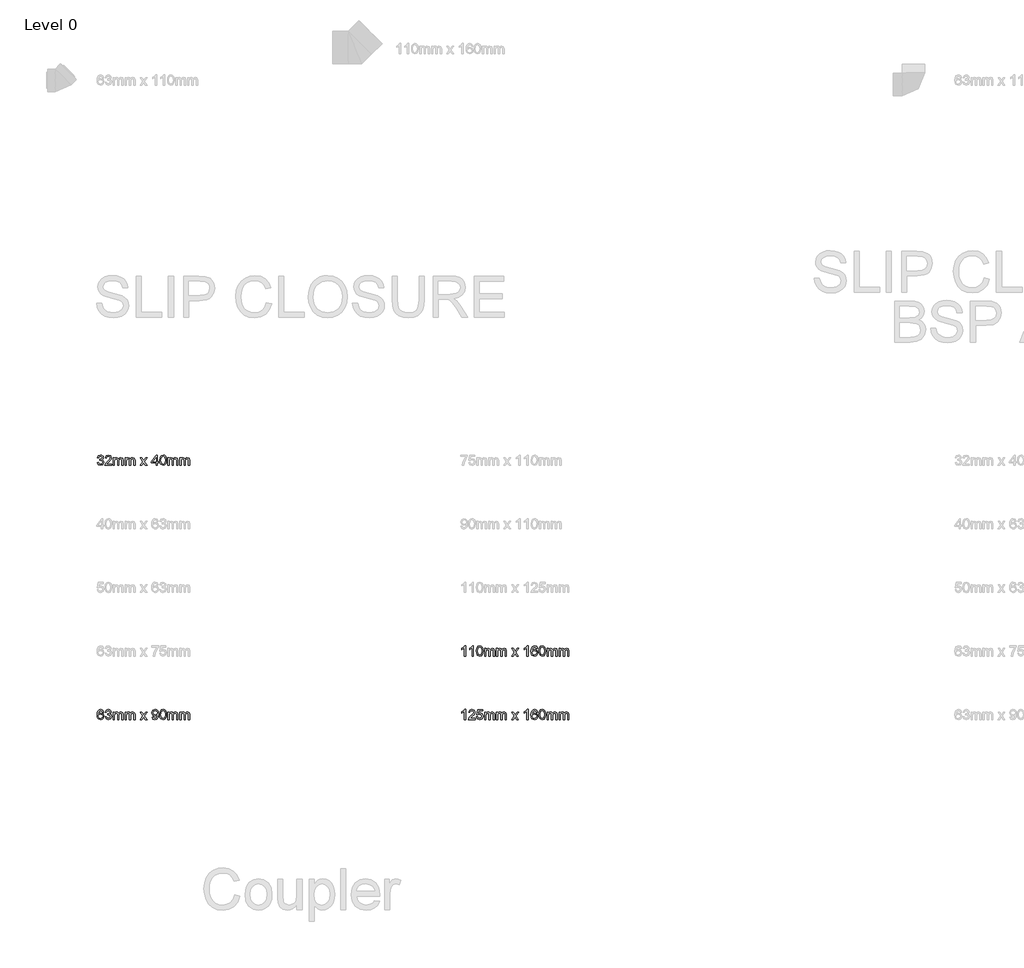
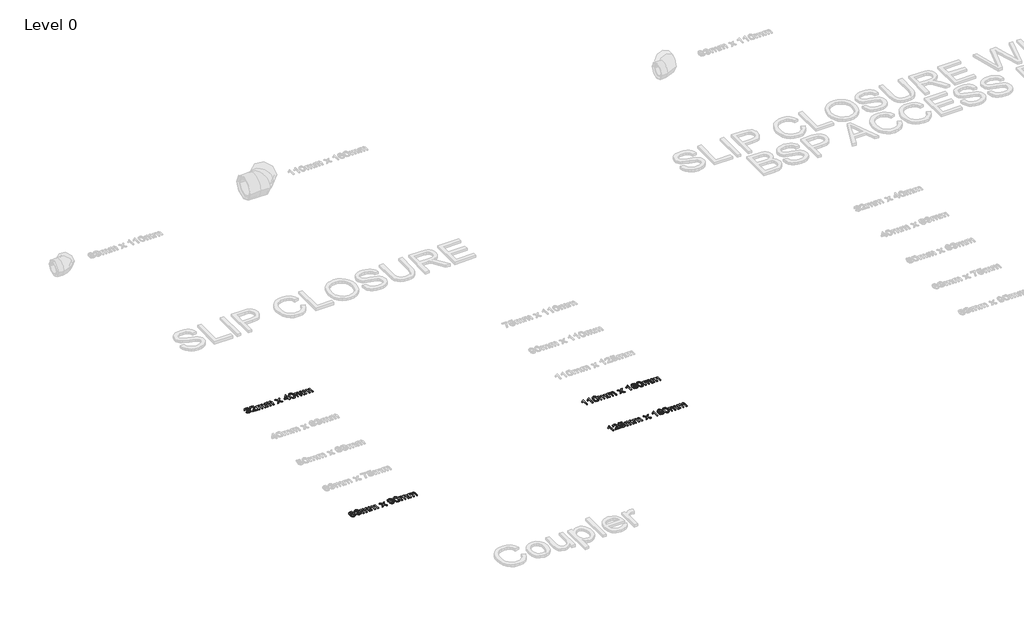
# One storey, part 10 of 21: 4 proxies.
"""IFC4 building model written with IfcOpenShell, lengths in millimetres."""

from ifc_helpers import new_model, si_unit, origin, origin_with_axes, place, context, project, spatial, polyline, outline, extrude, element, save

model = new_model("IFC4")

# Units and contexts
model_context = context("Model", 3, world=origin())
ifc_project = project(units=[si_unit("LENGTHUNIT", "METRE", prefix="MILLI")], contexts=[model_context])

# Site, building, storey
site = spatial("IfcSite", under=ifc_project)
building = spatial("IfcBuilding", under=site)
storey = spatial("IfcBuildingStorey", under=building, Name="Level 0", Elevation=0.0)

# Proxies
placement = place(None, origin())
element("IfcBuildingElementProxy", 1, Name="50mm", ObjectType="50mm", at=placement, inside=storey, context=model_context, shape_type="SweptSolid", body=[
    extrude(outline(polyline([(-7438.2285688, -5164.8694094), (-7431.9500494, -5164.0845945), (-7428.4858273, -5170.6942077), (-7422.0049728, -5172.7175586), (-7414.3775528, -5169.9339182), (-7411.5448614, -5163.0422622), (-7414.3530273, -5156.5491449), (-7421.4899381, -5153.9801023), (-7425.8922593, -5154.6668154), (-7425.1932835, -5148.388296), (-7417.0630914, -5146.6592506), (-7413.8993062, -5141.1164952), (-7416.1924373, -5136.2052706), (-7422.1030747, -5134.2616274), (-7428.0872885, -5136.2236647), (-7431.1652345, -5142.1097766), (-7437.4437539, -5141.3249617), (-7432.3056687, -5131.477987), (-7422.3238039, -5127.983108), (-7414.7515662, -5129.706022), (-7409.4540654, -5134.4149116), (-7407.6207868, -5140.7486132), (-7409.3620949, -5146.5366233), (-7414.5124429, -5150.6936899), (-7407.6698378, -5154.9856465), (-7405.2663421, -5163.1526268), (-7410.0733335, -5174.3852903), (-7422.225702, -5178.996078), (-7433.2376364, -5175.0597407), (-7438.2285688, -5164.8694094)])), origin_with_axes(), (0.0, 0.0, 1.0), 5.0),
    extrude(outline(polyline([(-7367.5952258, -5171.9327437), (-7367.5952258, -5178.2112631), (-7400.5574525, -5178.2112631), (-7399.8830022, -5173.8825183), (-7396.0692922, -5167.2177228), (-7388.2088802, -5159.9397907), (-7377.3686241, -5149.4796793), (-7374.6585601, -5142.367294), (-7377.2153399, -5136.6099408), (-7383.8923981, -5134.2616274), (-7390.8514992, -5136.5547585), (-7393.4941182, -5142.8945916), (-7399.7726376, -5142.1097766), (-7394.9595148, -5131.6006143), (-7383.7575081, -5127.983108), (-7372.5187131, -5132.0052845), (-7368.3800407, -5141.9871493), (-7369.4959494, -5147.9407063), (-7373.2054262, -5154.0965983), (-7382.200141, -5162.6989056), (-7389.4228908, -5168.7383017), (-7392.2555822, -5171.9327437), (-7367.5952258, -5171.9327437)])), origin_with_axes(), (0.0, 0.0, 1.0), 5.0),
    extrude(outline(polyline([(-7359.7470765, -5178.2112631), (-7359.7470765, -5141.3249617), (-7353.4685571, -5141.3249617), (-7353.4685571, -5147.3950146), (-7349.1520751, -5142.4224763), (-7343.0084457, -5140.5401468), (-7336.7176636, -5142.4592645), (-7333.2595729, -5147.836473), (-7328.360611, -5142.3642283), (-7322.1740621, -5140.5401468), (-7313.9641622, -5143.5751732), (-7311.0885513, -5152.9255073), (-7311.0885513, -5178.2112631), (-7317.3670707, -5178.2112631), (-7317.3670707, -5155.6233086), (-7317.9495505, -5150.3809902), (-7320.0587406, -5147.7996848), (-7323.6455901, -5146.8186662), (-7329.8198762, -5149.3325265), (-7332.2785542, -5157.3891422), (-7332.2785542, -5178.2112631), (-7338.5570736, -5178.2112631), (-7338.5570736, -5154.9243328), (-7340.0102075, -5148.8420171), (-7344.7742793, -5146.8186662), (-7349.4218552, -5148.1675668), (-7352.512064, -5152.1161669), (-7353.4685571, -5159.6086969), (-7353.4685571, -5178.2112631), (-7359.7470765, -5178.2112631)])), origin_with_axes(), (0.0, 0.0, 1.0), 5.0),
    extrude(outline(polyline([(-7301.6707722, -5178.2112631), (-7301.6707722, -5141.3249617), (-7295.3922528, -5141.3249617), (-7295.3922528, -5147.3950146), (-7291.0757708, -5142.4224763), (-7284.9321414, -5140.5401468), (-7278.6413593, -5142.4592645), (-7275.1832686, -5147.836473), (-7270.2843067, -5142.3642283), (-7264.0977578, -5140.5401468), (-7255.8878579, -5143.5751732), (-7253.012247, -5152.9255073), (-7253.012247, -5178.2112631), (-7259.2907664, -5178.2112631), (-7259.2907664, -5155.6233086), (-7259.8732462, -5150.3809902), (-7261.9824363, -5147.7996848), (-7265.5692858, -5146.8186662), (-7271.7435719, -5149.3325265), (-7274.2022499, -5157.3891422), (-7274.2022499, -5178.2112631), (-7280.4807693, -5178.2112631), (-7280.4807693, -5154.9243328), (-7281.9339032, -5148.8420171), (-7286.697975, -5146.8186662), (-7291.3455509, -5148.1675668), (-7294.4357597, -5152.1161669), (-7295.3922528, -5159.6086969), (-7295.3922528, -5178.2112631), (-7301.6707722, -5178.2112631)])), origin_with_axes(), (0.0, 0.0, 1.0), 5.0),
    extrude(outline(polyline([(-7227.8981695, -5178.2112631), (-7214.4827394, -5159.6700105), (-7227.1133545, -5141.3249617), (-7219.5595109, -5141.3249617), (-7213.4649325, -5150.1541296), (-7210.6199784, -5154.3234589), (-7208.155169, -5150.914419), (-7201.2144621, -5141.3249617), (-7193.6606184, -5141.3249617), (-7206.9288957, -5159.6700105), (-7194.1511278, -5178.2112631), (-7201.7049714, -5178.2112631), (-7209.3937051, -5167.0644386), (-7210.8039194, -5165.0288249), (-7220.3443258, -5178.2112631), (-7227.8981695, -5178.2112631)])), origin_with_axes(), (0.0, 0.0, 1.0), 5.0),
    extrude(outline(polyline([(-7150.2014921, -5178.2112631), (-7150.2014921, -5166.4390392), (-7172.9611248, -5166.4390392), (-7172.9611248, -5160.1605199), (-7148.6318622, -5128.7679229), (-7143.9229727, -5128.7679229), (-7143.9229727, -5160.1605199), (-7137.6444533, -5160.1605199), (-7137.6444533, -5166.4390392), (-7143.9229727, -5166.4390392), (-7143.9229727, -5178.2112631), (-7150.2014921, -5178.2112631)]), holes=[polyline([(-7150.2014921, -5160.1605199), (-7150.2014921, -5140.760876), (-7165.2356029, -5160.1605199), (-7150.2014921, -5160.1605199)])]), origin_with_axes(), (0.0, 0.0, 1.0), 5.0),
    extrude(outline(polyline([(-7132.1507488, -5153.5018557), (-7130.3052075, -5139.0502247), (-7124.8237658, -5130.7176975), (-7115.6696355, -5127.983108), (-7108.336521, -5129.6017888), (-7103.2720122, -5134.2677588), (-7100.3289563, -5141.6989751), (-7099.1885221, -5153.5018557), (-7101.0156693, -5167.8921731), (-7106.4787169, -5176.2430944), (-7115.6696355, -5178.996078), (-7127.1475537, -5174.2136121), (-7130.8999501, -5165.7186037), (-7132.1507488, -5153.5018557)]), holes=[polyline([(-7125.8722295, -5153.489593), (-7122.9291735, -5169.0816582), (-7115.6696355, -5172.7175586), (-7108.4100974, -5169.0693955), (-7105.4670415, -5153.489593), (-7108.3119956, -5138.0753374), (-7115.7432119, -5134.2616274), (-7122.8310716, -5137.6216163), (-7125.8722295, -5153.489593)])]), origin_with_axes(), (0.0, 0.0, 1.0), 5.0),
    extrude(outline(polyline([(-7092.1251878, -5178.2112631), (-7092.1251878, -5141.3249617), (-7085.8466684, -5141.3249617), (-7085.8466684, -5147.3950146), (-7081.5301863, -5142.4224763), (-7075.386557, -5140.5401468), (-7069.0957749, -5142.4592645), (-7065.6376841, -5147.836473), (-7060.7387222, -5142.3642283), (-7054.5521733, -5140.5401468), (-7046.3422735, -5143.5751732), (-7043.4666625, -5152.9255073), (-7043.4666625, -5178.2112631), (-7049.7451819, -5178.2112631), (-7049.7451819, -5155.6233086), (-7050.3276618, -5150.3809902), (-7052.4368519, -5147.7996848), (-7056.0237013, -5146.8186662), (-7062.1979875, -5149.3325265), (-7064.6566655, -5157.3891422), (-7064.6566655, -5178.2112631), (-7070.9351848, -5178.2112631), (-7070.9351848, -5154.9243328), (-7072.3883187, -5148.8420171), (-7077.1523906, -5146.8186662), (-7081.7999664, -5148.1675668), (-7084.8901752, -5152.1161669), (-7085.8466684, -5159.6086969), (-7085.8466684, -5178.2112631), (-7092.1251878, -5178.2112631)])), origin_with_axes(), (0.0, 0.0, 1.0), 5.0),
    extrude(outline(polyline([(-7034.0488835, -5178.2112631), (-7034.0488835, -5141.3249617), (-7027.7703641, -5141.3249617), (-7027.7703641, -5147.3950146), (-7023.453882, -5142.4224763), (-7017.3102527, -5140.5401468), (-7011.0194706, -5142.4592645), (-7007.5613798, -5147.836473), (-7002.6624179, -5142.3642283), (-6996.475869, -5140.5401468), (-6988.2659692, -5143.5751732), (-6985.3903582, -5152.9255073), (-6985.3903582, -5178.2112631), (-6991.6688776, -5178.2112631), (-6991.6688776, -5155.6233086), (-6992.2513574, -5150.3809902), (-6994.3605476, -5147.7996848), (-6997.947397, -5146.8186662), (-7004.1216832, -5149.3325265), (-7006.5803612, -5157.3891422), (-7006.5803612, -5178.2112631), (-7012.8588805, -5178.2112631), (-7012.8588805, -5154.9243328), (-7014.3120144, -5148.8420171), (-7019.0760863, -5146.8186662), (-7023.7236621, -5148.1675668), (-7026.8138709, -5152.1161669), (-7027.7703641, -5159.6086969), (-7027.7703641, -5178.2112631), (-7034.0488835, -5178.2112631)])), origin_with_axes(), (0.0, 0.0, 1.0), 5.0),
])
element("IfcBuildingElementProxy", 2, Name="50mm", ObjectType="50mm", at=placement, inside=storey, context=model_context, shape_type="SweptSolid", body=[
    extrude(outline(polyline([(-7406.051157, -6386.3249617), (-7412.3296764, -6387.1097766), (-7414.7086466, -6381.8735896), (-7420.9994287, -6379.2616274), (-7426.6648115, -6380.7822063), (-7430.9506367, -6386.4905086), (-7432.7348644, -6397.6802526), (-7427.1982403, -6392.6709261), (-7420.3372411, -6391.0338512), (-7409.6686633, -6395.5097489), (-7405.2663421, -6407.0735062), (-7407.338744, -6415.7371272), (-7413.0409149, -6421.8684938), (-7421.2692089, -6423.996078), (-7434.0653709, -6418.3552208), (-7437.7763805, -6410.8872163), (-7439.0133838, -6399.7649173), (-7437.6399576, -6387.2599951), (-7433.5196793, -6378.7098044), (-7427.8941505, -6374.4147821), (-7420.6070213, -6372.983108), (-7410.6864701, -6376.5270379), (-7406.051157, -6386.3249617)]), holes=[polyline([(-7432.7348644, -6406.9754044), (-7431.2817305, -6412.4139265), (-7427.4189695, -6416.3625266), (-7421.7597182, -6417.7175586), (-7414.3591587, -6414.9093927), (-7411.5448614, -6407.2819727), (-7414.3223705, -6399.9795151), (-7422.0172356, -6397.3123706), (-7429.6139988, -6399.9795151), (-7432.7348644, -6406.9754044)])]), origin_with_axes(), (0.0, 0.0, 1.0), 5.0),
    extrude(outline(polyline([(-7399.7726376, -6409.8694094), (-7393.4941182, -6409.0845945), (-7390.0298961, -6415.6942077), (-7383.5490416, -6417.7175586), (-7375.9216216, -6414.9339182), (-7373.0889302, -6408.0422622), (-7375.8970961, -6401.5491449), (-7383.0340068, -6398.9801023), (-7387.436328, -6399.6668154), (-7386.7373522, -6393.388296), (-7378.6071601, -6391.6592506), (-7375.443375, -6386.1164952), (-7377.7365061, -6381.2052706), (-7383.6471435, -6379.2616274), (-7389.6313573, -6381.2236647), (-7392.7093033, -6387.1097766), (-7398.9878227, -6386.3249617), (-7393.8497375, -6376.477987), (-7383.8678727, -6372.983108), (-7376.2956349, -6374.706022), (-7370.9981342, -6379.4149116), (-7369.1648556, -6385.7486132), (-7370.9061637, -6391.5366233), (-7376.0565116, -6395.6936899), (-7369.2139065, -6399.9856465), (-7366.8104108, -6408.1526268), (-7371.6174022, -6419.3852903), (-7383.7697708, -6423.996078), (-7394.7817052, -6420.0597407), (-7399.7726376, -6409.8694094)])), origin_with_axes(), (0.0, 0.0, 1.0), 5.0),
    extrude(outline(polyline([(-7359.7470765, -6423.2112631), (-7359.7470765, -6386.3249617), (-7353.4685571, -6386.3249617), (-7353.4685571, -6392.3950146), (-7349.1520751, -6387.4224763), (-7343.0084457, -6385.5401468), (-7336.7176636, -6387.4592645), (-7333.2595729, -6392.836473), (-7328.360611, -6387.3642283), (-7322.1740621, -6385.5401468), (-7313.9641622, -6388.5751732), (-7311.0885513, -6397.9255073), (-7311.0885513, -6423.2112631), (-7317.3670707, -6423.2112631), (-7317.3670707, -6400.6233086), (-7317.9495505, -6395.3809902), (-7320.0587406, -6392.7996848), (-7323.6455901, -6391.8186662), (-7329.8198762, -6394.3325265), (-7332.2785542, -6402.3891422), (-7332.2785542, -6423.2112631), (-7338.5570736, -6423.2112631), (-7338.5570736, -6399.9243328), (-7340.0102075, -6393.8420171), (-7344.7742793, -6391.8186662), (-7349.4218552, -6393.1675668), (-7352.512064, -6397.1161669), (-7353.4685571, -6404.6086969), (-7353.4685571, -6423.2112631), (-7359.7470765, -6423.2112631)])), origin_with_axes(), (0.0, 0.0, 1.0), 5.0),
    extrude(outline(polyline([(-7301.6707722, -6423.2112631), (-7301.6707722, -6386.3249617), (-7295.3922528, -6386.3249617), (-7295.3922528, -6392.3950146), (-7291.0757708, -6387.4224763), (-7284.9321414, -6385.5401468), (-7278.6413593, -6387.4592645), (-7275.1832686, -6392.836473), (-7270.2843067, -6387.3642283), (-7264.0977578, -6385.5401468), (-7255.8878579, -6388.5751732), (-7253.012247, -6397.9255073), (-7253.012247, -6423.2112631), (-7259.2907664, -6423.2112631), (-7259.2907664, -6400.6233086), (-7259.8732462, -6395.3809902), (-7261.9824363, -6392.7996848), (-7265.5692858, -6391.8186662), (-7271.7435719, -6394.3325265), (-7274.2022499, -6402.3891422), (-7274.2022499, -6423.2112631), (-7280.4807693, -6423.2112631), (-7280.4807693, -6399.9243328), (-7281.9339032, -6393.8420171), (-7286.697975, -6391.8186662), (-7291.3455509, -6393.1675668), (-7294.4357597, -6397.1161669), (-7295.3922528, -6404.6086969), (-7295.3922528, -6423.2112631), (-7301.6707722, -6423.2112631)])), origin_with_axes(), (0.0, 0.0, 1.0), 5.0),
    extrude(outline(polyline([(-7227.8981695, -6423.2112631), (-7214.4827394, -6404.6700105), (-7227.1133545, -6386.3249617), (-7219.5595109, -6386.3249617), (-7213.4649325, -6395.1541296), (-7210.6199784, -6399.3234589), (-7208.155169, -6395.914419), (-7201.2144621, -6386.3249617), (-7193.6606184, -6386.3249617), (-7206.9288957, -6404.6700105), (-7194.1511278, -6423.2112631), (-7201.7049714, -6423.2112631), (-7209.3937051, -6412.0644386), (-7210.8039194, -6410.0288249), (-7220.3443258, -6423.2112631), (-7227.8981695, -6423.2112631)])), origin_with_axes(), (0.0, 0.0, 1.0), 5.0),
    extrude(outline(polyline([(-7169.8218652, -6410.6542243), (-7163.5433458, -6409.8694094), (-7160.7229171, -6415.8597546), (-7155.3763655, -6417.7175586), (-7150.2934626, -6416.5219421), (-7146.8476346, -6413.3275002), (-7144.7936267, -6407.8705839), (-7143.8861845, -6400.5865204), (-7148.9445619, -6404.1181875), (-7155.8300866, -6405.9453348), (-7166.3208548, -6401.4816999), (-7170.6066801, -6389.7217388), (-7166.1123884, -6377.581633), (-7154.8490679, -6372.983108), (-7145.9034041, -6375.6073329), (-7139.747512, -6383.0876001), (-7137.6444533, -6397.1406924), (-7139.7413807, -6412.3894011), (-7145.9769805, -6421.0284966), (-7155.6706711, -6423.996078), (-7165.3214421, -6420.4950677), (-7169.8218652, -6410.6542243)]), holes=[polyline([(-7143.9229727, -6389.574586), (-7146.6330367, -6382.0452678), (-7153.8312611, -6379.2616274), (-7161.3851047, -6382.2598657), (-7164.3281607, -6390.0283071), (-7161.5445203, -6396.9874082), (-7154.0029394, -6399.6668154), (-7146.7617954, -6396.9874082), (-7143.9229727, -6389.574586)])]), origin_with_axes(), (0.0, 0.0, 1.0), 5.0),
    extrude(outline(polyline([(-7132.1507488, -6398.5018557), (-7130.3052075, -6384.0502247), (-7124.8237658, -6375.7176975), (-7115.6696355, -6372.983108), (-7108.336521, -6374.6017888), (-7103.2720122, -6379.2677588), (-7100.3289563, -6386.6989751), (-7099.1885221, -6398.5018557), (-7101.0156693, -6412.8921731), (-7106.4787169, -6421.2430944), (-7115.6696355, -6423.996078), (-7127.1475537, -6419.2136121), (-7130.8999501, -6410.7186037), (-7132.1507488, -6398.5018557)]), holes=[polyline([(-7125.8722295, -6398.489593), (-7122.9291735, -6414.0816582), (-7115.6696355, -6417.7175586), (-7108.4100974, -6414.0693955), (-7105.4670415, -6398.489593), (-7108.3119956, -6383.0753374), (-7115.7432119, -6379.2616274), (-7122.8310716, -6382.6216163), (-7125.8722295, -6398.489593)])]), origin_with_axes(), (0.0, 0.0, 1.0), 5.0),
    extrude(outline(polyline([(-7092.1251878, -6423.2112631), (-7092.1251878, -6386.3249617), (-7085.8466684, -6386.3249617), (-7085.8466684, -6392.3950146), (-7081.5301863, -6387.4224763), (-7075.386557, -6385.5401468), (-7069.0957749, -6387.4592645), (-7065.6376841, -6392.836473), (-7060.7387222, -6387.3642283), (-7054.5521733, -6385.5401468), (-7046.3422735, -6388.5751732), (-7043.4666625, -6397.9255073), (-7043.4666625, -6423.2112631), (-7049.7451819, -6423.2112631), (-7049.7451819, -6400.6233086), (-7050.3276618, -6395.3809902), (-7052.4368519, -6392.7996848), (-7056.0237013, -6391.8186662), (-7062.1979875, -6394.3325265), (-7064.6566655, -6402.3891422), (-7064.6566655, -6423.2112631), (-7070.9351848, -6423.2112631), (-7070.9351848, -6399.9243328), (-7072.3883187, -6393.8420171), (-7077.1523906, -6391.8186662), (-7081.7999664, -6393.1675668), (-7084.8901752, -6397.1161669), (-7085.8466684, -6404.6086969), (-7085.8466684, -6423.2112631), (-7092.1251878, -6423.2112631)])), origin_with_axes(), (0.0, 0.0, 1.0), 5.0),
    extrude(outline(polyline([(-7034.0488835, -6423.2112631), (-7034.0488835, -6386.3249617), (-7027.7703641, -6386.3249617), (-7027.7703641, -6392.3950146), (-7023.453882, -6387.4224763), (-7017.3102527, -6385.5401468), (-7011.0194706, -6387.4592645), (-7007.5613798, -6392.836473), (-7002.6624179, -6387.3642283), (-6996.475869, -6385.5401468), (-6988.2659692, -6388.5751732), (-6985.3903582, -6397.9255073), (-6985.3903582, -6423.2112631), (-6991.6688776, -6423.2112631), (-6991.6688776, -6400.6233086), (-6992.2513574, -6395.3809902), (-6994.3605476, -6392.7996848), (-6997.947397, -6391.8186662), (-7004.1216832, -6394.3325265), (-7006.5803612, -6402.3891422), (-7006.5803612, -6423.2112631), (-7012.8588805, -6423.2112631), (-7012.8588805, -6399.9243328), (-7014.3120144, -6393.8420171), (-7019.0760863, -6391.8186662), (-7023.7236621, -6393.1675668), (-7026.8138709, -6397.1161669), (-7027.7703641, -6404.6086969), (-7027.7703641, -6423.2112631), (-7034.0488835, -6423.2112631)])), origin_with_axes(), (0.0, 0.0, 1.0), 5.0),
])
element("IfcBuildingElementProxy", 3, Name="50mm", ObjectType="50mm", at=placement, inside=storey, context=model_context, shape_type="SweptSolid", body=[
    extrude(outline(polyline([(-5634.6841211, -6111.9612631), (-5640.9626405, -6111.9612631), (-5640.9626405, -6072.8186188), (-5646.9100661, -6077.0553931), (-5653.5196793, -6080.2253096), (-5653.5196793, -6074.2901468), (-5644.316498, -6068.4162976), (-5638.7308231, -6061.733108), (-5634.6841211, -6061.733108), (-5634.6841211, -6111.9612631)])), origin_with_axes(), (0.0, 0.0, 1.0), 5.0),
    extrude(outline(polyline([(-5596.2281899, -6111.9612631), (-5602.5067093, -6111.9612631), (-5602.5067093, -6072.8186188), (-5608.4541349, -6077.0553931), (-5615.0637481, -6080.2253096), (-5615.0637481, -6074.2901468), (-5605.8605668, -6068.4162976), (-5600.2748919, -6061.733108), (-5596.2281899, -6061.733108), (-5596.2281899, -6111.9612631)])), origin_with_axes(), (0.0, 0.0, 1.0), 5.0),
    extrude(outline(polyline([(-5581.3167064, -6087.2518557), (-5579.471165, -6072.8002247), (-5573.9897233, -6064.4676975), (-5564.835593, -6061.733108), (-5557.5024786, -6063.3517888), (-5552.4379698, -6068.0177588), (-5549.4949138, -6075.4489751), (-5548.3544796, -6087.2518557), (-5550.1816268, -6101.6421731), (-5555.6446745, -6109.9930944), (-5564.835593, -6112.746078), (-5576.3135112, -6107.9636121), (-5580.0659076, -6099.4686037), (-5581.3167064, -6087.2518557)]), holes=[polyline([(-5575.038187, -6087.239593), (-5572.095131, -6102.8316582), (-5564.835593, -6106.4675586), (-5557.576055, -6102.8193955), (-5554.632999, -6087.239593), (-5557.4779531, -6071.8253374), (-5564.9091694, -6068.0116274), (-5571.9970292, -6071.3716163), (-5575.038187, -6087.239593)])]), origin_with_axes(), (0.0, 0.0, 1.0), 5.0),
    extrude(outline(polyline([(-5541.2911453, -6111.9612631), (-5541.2911453, -6075.0749617), (-5535.0126259, -6075.0749617), (-5535.0126259, -6081.1450146), (-5530.6961438, -6076.1724763), (-5524.5525145, -6074.2901468), (-5518.2617324, -6076.2092645), (-5514.8036416, -6081.586473), (-5509.9046797, -6076.1142283), (-5503.7181309, -6074.2901468), (-5495.508231, -6077.3251732), (-5492.6326201, -6086.6755073), (-5492.6326201, -6111.9612631), (-5498.9111395, -6111.9612631), (-5498.9111395, -6089.3733086), (-5499.4936193, -6084.1309902), (-5501.6028094, -6081.5496848), (-5505.1896588, -6080.5686662), (-5511.363945, -6083.0825265), (-5513.822623, -6091.1391422), (-5513.822623, -6111.9612631), (-5520.1011424, -6111.9612631), (-5520.1011424, -6088.6743328), (-5521.5542763, -6082.5920171), (-5526.3183481, -6080.5686662), (-5530.965924, -6081.9175668), (-5534.0561327, -6085.8661669), (-5535.0126259, -6093.3586969), (-5535.0126259, -6111.9612631), (-5541.2911453, -6111.9612631)])), origin_with_axes(), (0.0, 0.0, 1.0), 5.0),
    extrude(outline(polyline([(-5483.214841, -6111.9612631), (-5483.214841, -6075.0749617), (-5476.9363216, -6075.0749617), (-5476.9363216, -6081.1450146), (-5472.6198395, -6076.1724763), (-5466.4762102, -6074.2901468), (-5460.1854281, -6076.2092645), (-5456.7273373, -6081.586473), (-5451.8283754, -6076.1142283), (-5445.6418266, -6074.2901468), (-5437.4319267, -6077.3251732), (-5434.5563158, -6086.6755073), (-5434.5563158, -6111.9612631), (-5440.8348351, -6111.9612631), (-5440.8348351, -6089.3733086), (-5441.417315, -6084.1309902), (-5443.5265051, -6081.5496848), (-5447.1133545, -6080.5686662), (-5453.2876407, -6083.0825265), (-5455.7463187, -6091.1391422), (-5455.7463187, -6111.9612631), (-5462.0248381, -6111.9612631), (-5462.0248381, -6088.6743328), (-5463.477972, -6082.5920171), (-5468.2420438, -6080.5686662), (-5472.8896197, -6081.9175668), (-5475.9798284, -6085.8661669), (-5476.9363216, -6093.3586969), (-5476.9363216, -6111.9612631), (-5483.214841, -6111.9612631)])), origin_with_axes(), (0.0, 0.0, 1.0), 5.0),
    extrude(outline(polyline([(-5409.4422382, -6111.9612631), (-5396.0268081, -6093.4200105), (-5408.6574233, -6075.0749617), (-5401.1035797, -6075.0749617), (-5395.0090013, -6083.9041296), (-5392.1640472, -6088.0734589), (-5389.6992378, -6084.664419), (-5382.7585308, -6075.0749617), (-5375.2046872, -6075.0749617), (-5388.4729645, -6093.4200105), (-5375.6951965, -6111.9612631), (-5383.2490402, -6111.9612631), (-5390.9377739, -6100.8144386), (-5392.3479882, -6098.7788249), (-5401.8883946, -6111.9612631), (-5409.4422382, -6111.9612631)])), origin_with_axes(), (0.0, 0.0, 1.0), 5.0),
    extrude(outline(polyline([(-5328.6063012, -6111.9612631), (-5334.8848205, -6111.9612631), (-5334.8848205, -6072.8186188), (-5340.8322461, -6077.0553931), (-5347.4418593, -6080.2253096), (-5347.4418593, -6074.2901468), (-5338.2386781, -6068.4162976), (-5332.6530031, -6061.733108), (-5328.6063012, -6061.733108), (-5328.6063012, -6111.9612631)])), origin_with_axes(), (0.0, 0.0, 1.0), 5.0),
    extrude(outline(polyline([(-5281.5174058, -6075.0749617), (-5287.7959252, -6075.8597766), (-5290.1748954, -6070.6235896), (-5296.4656775, -6068.0116274), (-5302.1310602, -6069.5322063), (-5306.4168855, -6075.2405086), (-5308.2011132, -6086.4302526), (-5302.6644891, -6081.4209261), (-5295.8034899, -6079.7838512), (-5285.1349121, -6084.2597489), (-5280.7325908, -6095.8235062), (-5282.8049928, -6104.4871272), (-5288.5071637, -6110.6184938), (-5296.7354576, -6112.746078), (-5309.5316197, -6107.1052208), (-5313.2426293, -6099.6372163), (-5314.4796325, -6088.5149173), (-5313.1062064, -6076.0099951), (-5308.9859281, -6067.4598044), (-5303.3603992, -6063.1647821), (-5296.07327, -6061.733108), (-5286.1527189, -6065.2770379), (-5281.5174058, -6075.0749617)]), holes=[polyline([(-5308.2011132, -6095.7254044), (-5306.7479793, -6101.1639265), (-5302.8852183, -6105.1125266), (-5297.225967, -6106.4675586), (-5289.8254075, -6103.6593927), (-5287.0111102, -6096.0319727), (-5289.7886193, -6088.7295151), (-5297.4834844, -6086.0623706), (-5305.0802476, -6088.7295151), (-5308.2011132, -6095.7254044)])]), origin_with_axes(), (0.0, 0.0, 1.0), 5.0),
    extrude(outline(polyline([(-5275.2388864, -6087.2518557), (-5273.393345, -6072.8002247), (-5267.9119033, -6064.4676975), (-5258.757773, -6061.733108), (-5251.4246586, -6063.3517888), (-5246.3601498, -6068.0177588), (-5243.4170938, -6075.4489751), (-5242.2766596, -6087.2518557), (-5244.1038069, -6101.6421731), (-5249.5668545, -6109.9930944), (-5258.757773, -6112.746078), (-5270.2356913, -6107.9636121), (-5273.9880876, -6099.4686037), (-5275.2388864, -6087.2518557)]), holes=[polyline([(-5268.960367, -6087.239593), (-5266.017311, -6102.8316582), (-5258.757773, -6106.4675586), (-5251.498235, -6102.8193955), (-5248.555179, -6087.239593), (-5251.4001331, -6071.8253374), (-5258.8313494, -6068.0116274), (-5265.9192092, -6071.3716163), (-5268.960367, -6087.239593)])]), origin_with_axes(), (0.0, 0.0, 1.0), 5.0),
    extrude(outline(polyline([(-5235.2133253, -6111.9612631), (-5235.2133253, -6075.0749617), (-5228.9348059, -6075.0749617), (-5228.9348059, -6081.1450146), (-5224.6183239, -6076.1724763), (-5218.4746945, -6074.2901468), (-5212.1839124, -6076.2092645), (-5208.7258217, -6081.586473), (-5203.8268598, -6076.1142283), (-5197.6403109, -6074.2901468), (-5189.430411, -6077.3251732), (-5186.5548001, -6086.6755073), (-5186.5548001, -6111.9612631), (-5192.8333195, -6111.9612631), (-5192.8333195, -6089.3733086), (-5193.4157993, -6084.1309902), (-5195.5249894, -6081.5496848), (-5199.1118389, -6080.5686662), (-5205.286125, -6083.0825265), (-5207.744803, -6091.1391422), (-5207.744803, -6111.9612631), (-5214.0233224, -6111.9612631), (-5214.0233224, -6088.6743328), (-5215.4764563, -6082.5920171), (-5220.2405281, -6080.5686662), (-5224.888104, -6081.9175668), (-5227.9783127, -6085.8661669), (-5228.9348059, -6093.3586969), (-5228.9348059, -6111.9612631), (-5235.2133253, -6111.9612631)])), origin_with_axes(), (0.0, 0.0, 1.0), 5.0),
    extrude(outline(polyline([(-5177.137021, -6111.9612631), (-5177.137021, -6075.0749617), (-5170.8585016, -6075.0749617), (-5170.8585016, -6081.1450146), (-5166.5420195, -6076.1724763), (-5160.3983902, -6074.2901468), (-5154.1076081, -6076.2092645), (-5150.6495174, -6081.586473), (-5145.7505555, -6076.1142283), (-5139.5640066, -6074.2901468), (-5131.3541067, -6077.3251732), (-5128.4784958, -6086.6755073), (-5128.4784958, -6111.9612631), (-5134.7570152, -6111.9612631), (-5134.7570152, -6089.3733086), (-5135.339495, -6084.1309902), (-5137.4486851, -6081.5496848), (-5141.0355345, -6080.5686662), (-5147.2098207, -6083.0825265), (-5149.6684987, -6091.1391422), (-5149.6684987, -6111.9612631), (-5155.9470181, -6111.9612631), (-5155.9470181, -6088.6743328), (-5157.400152, -6082.5920171), (-5162.1642238, -6080.5686662), (-5166.8117997, -6081.9175668), (-5169.9020084, -6085.8661669), (-5170.8585016, -6093.3586969), (-5170.8585016, -6111.9612631), (-5177.137021, -6111.9612631)])), origin_with_axes(), (0.0, 0.0, 1.0), 5.0),
])
element("IfcBuildingElementProxy", 4, Name="50mm", ObjectType="50mm", at=placement, inside=storey, context=model_context, shape_type="SweptSolid", body=[
    extrude(outline(polyline([(-5634.6841211, -6423.2112631), (-5640.9626405, -6423.2112631), (-5640.9626405, -6384.0686188), (-5646.9100661, -6388.3053931), (-5653.5196793, -6391.4753096), (-5653.5196793, -6385.5401468), (-5644.316498, -6379.6662976), (-5638.7308231, -6372.983108), (-5634.6841211, -6372.983108), (-5634.6841211, -6423.2112631)])), origin_with_axes(), (0.0, 0.0, 1.0), 5.0),
    extrude(outline(polyline([(-5587.5952258, -6416.9327437), (-5587.5952258, -6423.2112631), (-5620.5574525, -6423.2112631), (-5619.8830022, -6418.8825183), (-5616.0692922, -6412.2177228), (-5608.2088802, -6404.9397907), (-5597.3686241, -6394.4796793), (-5594.6585601, -6387.367294), (-5597.2153399, -6381.6099408), (-5603.8923981, -6379.2616274), (-5610.8514992, -6381.5547585), (-5613.4941182, -6387.8945916), (-5619.7726376, -6387.1097766), (-5614.9595148, -6376.6006143), (-5603.7575081, -6372.983108), (-5592.5187131, -6377.0052845), (-5588.3800407, -6386.9871493), (-5589.4959494, -6392.9407063), (-5593.2054262, -6399.0965983), (-5602.200141, -6407.6989056), (-5609.4228908, -6413.7383017), (-5612.2555822, -6416.9327437), (-5587.5952258, -6416.9327437)])), origin_with_axes(), (0.0, 0.0, 1.0), 5.0),
    extrude(outline(polyline([(-5581.3167064, -6409.8694094), (-5575.038187, -6409.0845945), (-5571.8744018, -6415.5531862), (-5565.3138396, -6417.7175586), (-5557.4411649, -6414.7070576), (-5554.632999, -6406.717887), (-5557.2633553, -6399.2621452), (-5565.2157377, -6396.5275557), (-5570.7278363, -6397.618939), (-5574.2533721, -6400.4516303), (-5580.5318915, -6399.6668154), (-5575.038187, -6373.7679229), (-5550.7089244, -6373.7679229), (-5550.7089244, -6380.0464423), (-5569.9614155, -6380.0464423), (-5572.646954, -6393.8788053), (-5563.4621669, -6390.2490363), (-5552.726144, -6394.7494594), (-5548.3544796, -6406.3254795), (-5552.290817, -6417.975076), (-5557.9439369, -6422.4908275), (-5565.3383651, -6423.996078), (-5576.4177445, -6420.1271857), (-5581.3167064, -6409.8694094)])), origin_with_axes(), (0.0, 0.0, 1.0), 5.0),
    extrude(outline(polyline([(-5541.2911453, -6423.2112631), (-5541.2911453, -6386.3249617), (-5535.0126259, -6386.3249617), (-5535.0126259, -6392.3950146), (-5530.6961438, -6387.4224763), (-5524.5525145, -6385.5401468), (-5518.2617324, -6387.4592645), (-5514.8036416, -6392.836473), (-5509.9046797, -6387.3642283), (-5503.7181309, -6385.5401468), (-5495.508231, -6388.5751732), (-5492.6326201, -6397.9255073), (-5492.6326201, -6423.2112631), (-5498.9111395, -6423.2112631), (-5498.9111395, -6400.6233086), (-5499.4936193, -6395.3809902), (-5501.6028094, -6392.7996848), (-5505.1896588, -6391.8186662), (-5511.363945, -6394.3325265), (-5513.822623, -6402.3891422), (-5513.822623, -6423.2112631), (-5520.1011424, -6423.2112631), (-5520.1011424, -6399.9243328), (-5521.5542763, -6393.8420171), (-5526.3183481, -6391.8186662), (-5530.965924, -6393.1675668), (-5534.0561327, -6397.1161669), (-5535.0126259, -6404.6086969), (-5535.0126259, -6423.2112631), (-5541.2911453, -6423.2112631)])), origin_with_axes(), (0.0, 0.0, 1.0), 5.0),
    extrude(outline(polyline([(-5483.214841, -6423.2112631), (-5483.214841, -6386.3249617), (-5476.9363216, -6386.3249617), (-5476.9363216, -6392.3950146), (-5472.6198395, -6387.4224763), (-5466.4762102, -6385.5401468), (-5460.1854281, -6387.4592645), (-5456.7273373, -6392.836473), (-5451.8283754, -6387.3642283), (-5445.6418266, -6385.5401468), (-5437.4319267, -6388.5751732), (-5434.5563158, -6397.9255073), (-5434.5563158, -6423.2112631), (-5440.8348351, -6423.2112631), (-5440.8348351, -6400.6233086), (-5441.417315, -6395.3809902), (-5443.5265051, -6392.7996848), (-5447.1133545, -6391.8186662), (-5453.2876407, -6394.3325265), (-5455.7463187, -6402.3891422), (-5455.7463187, -6423.2112631), (-5462.0248381, -6423.2112631), (-5462.0248381, -6399.9243328), (-5463.477972, -6393.8420171), (-5468.2420438, -6391.8186662), (-5472.8896197, -6393.1675668), (-5475.9798284, -6397.1161669), (-5476.9363216, -6404.6086969), (-5476.9363216, -6423.2112631), (-5483.214841, -6423.2112631)])), origin_with_axes(), (0.0, 0.0, 1.0), 5.0),
    extrude(outline(polyline([(-5409.4422382, -6423.2112631), (-5396.0268081, -6404.6700105), (-5408.6574233, -6386.3249617), (-5401.1035797, -6386.3249617), (-5395.0090013, -6395.1541296), (-5392.1640472, -6399.3234589), (-5389.6992378, -6395.914419), (-5382.7585308, -6386.3249617), (-5375.2046872, -6386.3249617), (-5388.4729645, -6404.6700105), (-5375.6951965, -6423.2112631), (-5383.2490402, -6423.2112631), (-5390.9377739, -6412.0644386), (-5392.3479882, -6410.0288249), (-5401.8883946, -6423.2112631), (-5409.4422382, -6423.2112631)])), origin_with_axes(), (0.0, 0.0, 1.0), 5.0),
    extrude(outline(polyline([(-5328.6063012, -6423.2112631), (-5334.8848205, -6423.2112631), (-5334.8848205, -6384.0686188), (-5340.8322461, -6388.3053931), (-5347.4418593, -6391.4753096), (-5347.4418593, -6385.5401468), (-5338.2386781, -6379.6662976), (-5332.6530031, -6372.983108), (-5328.6063012, -6372.983108), (-5328.6063012, -6423.2112631)])), origin_with_axes(), (0.0, 0.0, 1.0), 5.0),
    extrude(outline(polyline([(-5281.5174058, -6386.3249617), (-5287.7959252, -6387.1097766), (-5290.1748954, -6381.8735896), (-5296.4656775, -6379.2616274), (-5302.1310602, -6380.7822063), (-5306.4168855, -6386.4905086), (-5308.2011132, -6397.6802526), (-5302.6644891, -6392.6709261), (-5295.8034899, -6391.0338512), (-5285.1349121, -6395.5097489), (-5280.7325908, -6407.0735062), (-5282.8049928, -6415.7371272), (-5288.5071637, -6421.8684938), (-5296.7354576, -6423.996078), (-5309.5316197, -6418.3552208), (-5313.2426293, -6410.8872163), (-5314.4796325, -6399.7649173), (-5313.1062064, -6387.2599951), (-5308.9859281, -6378.7098044), (-5303.3603992, -6374.4147821), (-5296.07327, -6372.983108), (-5286.1527189, -6376.5270379), (-5281.5174058, -6386.3249617)]), holes=[polyline([(-5308.2011132, -6406.9754044), (-5306.7479793, -6412.4139265), (-5302.8852183, -6416.3625266), (-5297.225967, -6417.7175586), (-5289.8254075, -6414.9093927), (-5287.0111102, -6407.2819727), (-5289.7886193, -6399.9795151), (-5297.4834844, -6397.3123706), (-5305.0802476, -6399.9795151), (-5308.2011132, -6406.9754044)])]), origin_with_axes(), (0.0, 0.0, 1.0), 5.0),
    extrude(outline(polyline([(-5275.2388864, -6398.5018557), (-5273.393345, -6384.0502247), (-5267.9119033, -6375.7176975), (-5258.757773, -6372.983108), (-5251.4246586, -6374.6017888), (-5246.3601498, -6379.2677588), (-5243.4170938, -6386.6989751), (-5242.2766596, -6398.5018557), (-5244.1038069, -6412.8921731), (-5249.5668545, -6421.2430944), (-5258.757773, -6423.996078), (-5270.2356913, -6419.2136121), (-5273.9880876, -6410.7186037), (-5275.2388864, -6398.5018557)]), holes=[polyline([(-5268.960367, -6398.489593), (-5266.017311, -6414.0816582), (-5258.757773, -6417.7175586), (-5251.498235, -6414.0693955), (-5248.555179, -6398.489593), (-5251.4001331, -6383.0753374), (-5258.8313494, -6379.2616274), (-5265.9192092, -6382.6216163), (-5268.960367, -6398.489593)])]), origin_with_axes(), (0.0, 0.0, 1.0), 5.0),
    extrude(outline(polyline([(-5235.2133253, -6423.2112631), (-5235.2133253, -6386.3249617), (-5228.9348059, -6386.3249617), (-5228.9348059, -6392.3950146), (-5224.6183239, -6387.4224763), (-5218.4746945, -6385.5401468), (-5212.1839124, -6387.4592645), (-5208.7258217, -6392.836473), (-5203.8268598, -6387.3642283), (-5197.6403109, -6385.5401468), (-5189.430411, -6388.5751732), (-5186.5548001, -6397.9255073), (-5186.5548001, -6423.2112631), (-5192.8333195, -6423.2112631), (-5192.8333195, -6400.6233086), (-5193.4157993, -6395.3809902), (-5195.5249894, -6392.7996848), (-5199.1118389, -6391.8186662), (-5205.286125, -6394.3325265), (-5207.744803, -6402.3891422), (-5207.744803, -6423.2112631), (-5214.0233224, -6423.2112631), (-5214.0233224, -6399.9243328), (-5215.4764563, -6393.8420171), (-5220.2405281, -6391.8186662), (-5224.888104, -6393.1675668), (-5227.9783127, -6397.1161669), (-5228.9348059, -6404.6086969), (-5228.9348059, -6423.2112631), (-5235.2133253, -6423.2112631)])), origin_with_axes(), (0.0, 0.0, 1.0), 5.0),
    extrude(outline(polyline([(-5177.137021, -6423.2112631), (-5177.137021, -6386.3249617), (-5170.8585016, -6386.3249617), (-5170.8585016, -6392.3950146), (-5166.5420195, -6387.4224763), (-5160.3983902, -6385.5401468), (-5154.1076081, -6387.4592645), (-5150.6495174, -6392.836473), (-5145.7505555, -6387.3642283), (-5139.5640066, -6385.5401468), (-5131.3541067, -6388.5751732), (-5128.4784958, -6397.9255073), (-5128.4784958, -6423.2112631), (-5134.7570152, -6423.2112631), (-5134.7570152, -6400.6233086), (-5135.339495, -6395.3809902), (-5137.4486851, -6392.7996848), (-5141.0355345, -6391.8186662), (-5147.2098207, -6394.3325265), (-5149.6684987, -6402.3891422), (-5149.6684987, -6423.2112631), (-5155.9470181, -6423.2112631), (-5155.9470181, -6399.9243328), (-5157.400152, -6393.8420171), (-5162.1642238, -6391.8186662), (-5166.8117997, -6393.1675668), (-5169.9020084, -6397.1161669), (-5170.8585016, -6404.6086969), (-5170.8585016, -6423.2112631), (-5177.137021, -6423.2112631)])), origin_with_axes(), (0.0, 0.0, 1.0), 5.0),
])

save(model, "model.ifc")
